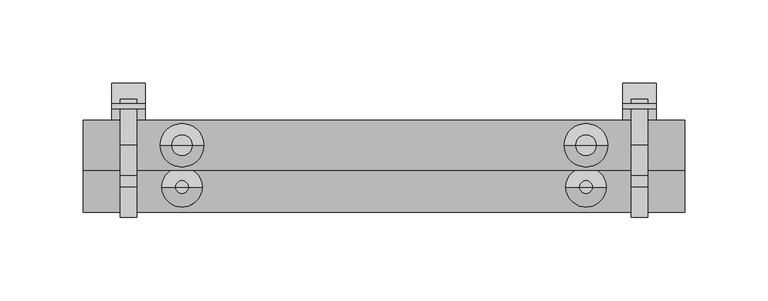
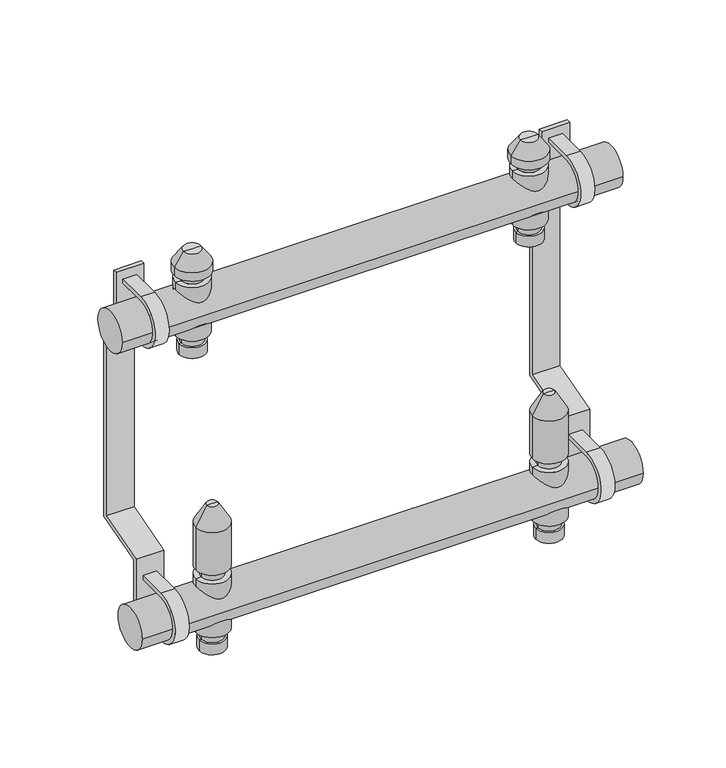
"""IFC4 building model written with IfcOpenShell, lengths in millimetres: valve geometry, PL AT_Manifold_FT-EV : 06 circuits."""

from ifc_helpers import new_model, si_unit, point, frame, frame_2d, origin, origin_2d, place, context, project, spatial, polyline, circle_curve, trimmed, segment, composite_curve, outline, extrude, source, transform, mapped, element, save
from ifc_brep_helpers import plane_surface, cylinder_surface, revolved_surface, advanced_brep


def valve_02e7046f(model_context):
    return source(origin(), model_context, "Body", "SolidModel", [
        advanced_brep(
        [(274.5, 0.0, -35.11267), (293.5, 0.0, -35.11267), (284.0, 0.0, -35.11267), (274.5, 0.0, -27.0369646), (293.5, 0.0, -27.0369646), (276.0, 0.0, -27.0369646), (292.0, 0.0, -27.0369646), (276.0, 0.0, -20.330253), (292.0, 0.0, -20.330253), (272.0, 0.0, -20.330253), (296.0, 0.0, -20.330253), (272.0, 0.0, 20.330253), (296.0, 0.0, 20.330253), (276.0, 0.0, 20.330253), (292.0, 0.0, 20.330253), (276.0, 0.0, 27.0474786), (292.0, 0.0, 27.0474786), (272.0, 0.0, 27.0474786), (296.0, 0.0, 27.0474786), (272.0, 0.0, 59.4084325), (296.0, 0.0, 59.4084325), (280.0, 0.0, 73.264839), (288.0, 0.0, 73.264839), (284.0, 0.0, 73.264839)],
        [
            (0, 1, circle_curve(frame((284.0, 0.0, -35.11267), z_axis=(0.0, 0.0, -1.0), x_axis=(1.0, 0.0, 0.0)), 9.5)),
            (1, 2),
            (2, 0),
            (1, 0, circle_curve(frame((284.0, 0.0, -35.11267), z_axis=(0.0, 0.0, -1.0), x_axis=(1.0, 0.0, 0.0)), 9.5)),
            (3, 4, circle_curve(frame((284.0, 0.0, -27.0369646), z_axis=(0.0, 0.0, -1.0), x_axis=(1.0, 0.0, 0.0)), 9.5)),
            (4, 1),
            (0, 3),
            (4, 3, circle_curve(frame((284.0, 0.0, -27.0369646), z_axis=(0.0, 0.0, -1.0), x_axis=(1.0, 0.0, 0.0)), 9.5)),
            (5, 6, circle_curve(frame((284.0, 0.0, -27.0369646), z_axis=(0.0, 0.0, -1.0), x_axis=(1.0, 0.0, 0.0)), 8.0)),
            (6, 4),
            (3, 5),
            (6, 5, circle_curve(frame((284.0, 0.0, -27.0369646), z_axis=(0.0, 0.0, -1.0), x_axis=(1.0, 0.0, 0.0)), 8.0)),
            (7, 8, circle_curve(frame((284.0, 0.0, -20.330253), z_axis=(0.0, 0.0, -1.0), x_axis=(1.0, 0.0, 0.0)), 8.0)),
            (8, 6),
            (5, 7),
            (8, 7, circle_curve(frame((284.0, 0.0, -20.330253), z_axis=(0.0, 0.0, -1.0), x_axis=(1.0, 0.0, 0.0)), 8.0)),
            (9, 10, circle_curve(frame((284.0, 0.0, -20.330253), z_axis=(0.0, 0.0, -1.0), x_axis=(1.0, 0.0, 0.0)), 12.0)),
            (10, 8),
            (7, 9),
            (10, 9, circle_curve(frame((284.0, 0.0, -20.330253), z_axis=(0.0, 0.0, -1.0), x_axis=(1.0, 0.0, 0.0)), 12.0)),
            (11, 12, circle_curve(frame((284.0, 0.0, 20.330253), z_axis=(0.0, 0.0, -1.0), x_axis=(1.0, 0.0, 0.0)), 12.0)),
            (12, 10),
            (9, 11),
            (12, 11, circle_curve(frame((284.0, 0.0, 20.330253), z_axis=(0.0, 0.0, -1.0), x_axis=(1.0, 0.0, 0.0)), 12.0)),
            (13, 14, circle_curve(frame((284.0, 0.0, 20.330253), z_axis=(0.0, 0.0, -1.0), x_axis=(1.0, 0.0, 0.0)), 8.0)),
            (14, 12),
            (11, 13),
            (14, 13, circle_curve(frame((284.0, 0.0, 20.330253), z_axis=(0.0, 0.0, -1.0), x_axis=(1.0, 0.0, 0.0)), 8.0)),
            (15, 16, circle_curve(frame((284.0, 0.0, 27.0474786), z_axis=(0.0, 0.0, -1.0), x_axis=(1.0, 0.0, 0.0)), 8.0)),
            (16, 14),
            (13, 15),
            (16, 15, circle_curve(frame((284.0, 0.0, 27.0474786), z_axis=(0.0, 0.0, -1.0), x_axis=(1.0, 0.0, 0.0)), 8.0)),
            (17, 18, circle_curve(frame((284.0, 0.0, 27.0474786), z_axis=(0.0, 0.0, -1.0), x_axis=(1.0, 0.0, 0.0)), 12.0)),
            (18, 16),
            (15, 17),
            (18, 17, circle_curve(frame((284.0, 0.0, 27.0474786), z_axis=(0.0, 0.0, -1.0), x_axis=(1.0, 0.0, 0.0)), 12.0)),
            (19, 20, circle_curve(frame((284.0, 0.0, 59.4084325), z_axis=(0.0, 0.0, -1.0), x_axis=(1.0, 0.0, 0.0)), 12.0)),
            (20, 18),
            (17, 19),
            (20, 19, circle_curve(frame((284.0, 0.0, 59.4084325), z_axis=(0.0, 0.0, -1.0), x_axis=(1.0, 0.0, 0.0)), 12.0)),
            (21, 22, circle_curve(frame((284.0, 0.0, 73.264839), z_axis=(0.0, 0.0, -1.0), x_axis=(1.0, 0.0, 0.0)), 4.0)),
            (22, 20),
            (19, 21),
            (22, 21, circle_curve(frame((284.0, 0.0, 73.264839), z_axis=(0.0, 0.0, -1.0), x_axis=(1.0, 0.0, 0.0)), 4.0)),
            (23, 22),
            (21, 23),
        ],
        [
            plane_surface(frame((284.0, 0.0, -35.11267), z_axis=(0.0, 0.0, -1.0), x_axis=(1.0, 0.0, 0.0))),
            cylinder_surface(frame((284.0, 0.0, 58.264839), z_axis=(0.0, 0.0, 1.0), x_axis=(1.0, 0.0, 0.0)), 9.5),
            plane_surface(frame((284.0, 0.0, -27.0369646), z_axis=(0.0, 0.0, 1.0), x_axis=(1.0, 0.0, 0.0))),
            cylinder_surface(frame((284.0, 0.0, 58.264839), z_axis=(0.0, 0.0, 1.0), x_axis=(1.0, 0.0, 0.0)), 8.0),
            plane_surface(frame((284.0, 0.0, -20.330253), z_axis=(0.0, 0.0, -1.0), x_axis=(1.0, 0.0, 0.0))),
            cylinder_surface(frame((284.0, 0.0, 58.264839), z_axis=(0.0, 0.0, 1.0), x_axis=(1.0, 0.0, 0.0)), 12.0),
            plane_surface(frame((284.0, 0.0, 20.330253), z_axis=(0.0, 0.0, 1.0), x_axis=(1.0, 0.0, 0.0))),
            plane_surface(frame((284.0, 0.0, 27.0474786), z_axis=(0.0, 0.0, -1.0), x_axis=(1.0, 0.0, 0.0))),
            revolved_surface(polyline([(296.0, 0.0, 59.4084325), (288.0, 0.0, 73.264839)]), (284.0, 0.0, 58.264839), (0.0, 0.0, 1.0)),
            plane_surface(frame((284.0, 0.0, 73.264839), z_axis=(0.0, 0.0, 1.0), x_axis=(1.0, 0.0, 0.0))),
        ],
        [
            (0, [[1, 2, 3]]),
            (0, [[4, -3, -2]]),
            (1, [[5, 6, -1, 7]]),
            (1, [[8, -7, -4, -6]]),
            (2, [[9, 10, -5, 11]]),
            (2, [[12, -11, -8, -10]]),
            (3, [[13, 14, -9, 15]]),
            (3, [[16, -15, -12, -14]]),
            (4, [[17, 18, -13, 19]]),
            (4, [[20, -19, -16, -18]]),
            (5, [[21, 22, -17, 23]]),
            (5, [[24, -23, -20, -22]]),
            (6, [[25, 26, -21, 27]]),
            (6, [[28, -27, -24, -26]]),
            (3, [[29, 30, -25, 31]]),
            (3, [[32, -31, -28, -30]]),
            (7, [[33, 34, -29, 35]]),
            (7, [[36, -35, -32, -34]]),
            (5, [[37, 38, -33, 39]]),
            (5, [[40, -39, -36, -38]]),
            (8, [[41, 42, -37, 43]]),
            (8, [[44, -43, -40, -42]]),
            (9, [[45, -41, 46]]),
            (9, [[-46, -44, -45]]),
        ],
    ),
        advanced_brep(
        [(274.5, 25.0, 174.88733), (293.5, 25.0, 174.88733), (284.0, 25.0, 174.88733), (274.5, 25.0, 182.9630354), (293.5, 25.0, 182.9630354), (276.0, 25.0, 182.9630354), (292.0, 25.0, 182.9630354), (276.0, 25.0, 189.669747), (292.0, 25.0, 189.669747), (272.0, 25.0, 189.669747), (296.0, 25.0, 189.669747), (272.0, 25.0, 230.330253), (296.0, 25.0, 230.330253), (276.0, 25.0, 230.330253), (292.0, 25.0, 230.330253), (276.0, 25.0, 236.0474786), (292.0, 25.0, 236.0474786), (271.0, 25.0, 236.0474786), (297.0, 25.0, 236.0474786), (271.0, 25.0, 242.337955), (297.0, 25.0, 242.337955), (277.6551779, 25.0, 251.842534), (290.3448221, 25.0, 251.842534), (284.0, 25.0, 251.842534)],
        [
            (0, 1, circle_curve(frame((284.0, 25.0, 174.88733), z_axis=(0.0, 0.0, -1.0), x_axis=(1.0, 0.0, 0.0)), 9.5)),
            (1, 2),
            (2, 0),
            (1, 0, circle_curve(frame((284.0, 25.0, 174.88733), z_axis=(0.0, 0.0, -1.0), x_axis=(1.0, 0.0, 0.0)), 9.5)),
            (3, 4, circle_curve(frame((284.0, 25.0, 182.9630354), z_axis=(0.0, 0.0, -1.0), x_axis=(1.0, 0.0, 0.0)), 9.5)),
            (4, 1),
            (0, 3),
            (4, 3, circle_curve(frame((284.0, 25.0, 182.9630354), z_axis=(0.0, 0.0, -1.0), x_axis=(1.0, 0.0, 0.0)), 9.5)),
            (5, 6, circle_curve(frame((284.0, 25.0, 182.9630354), z_axis=(0.0, 0.0, -1.0), x_axis=(1.0, 0.0, 0.0)), 8.0)),
            (6, 4),
            (3, 5),
            (6, 5, circle_curve(frame((284.0, 25.0, 182.9630354), z_axis=(0.0, 0.0, -1.0), x_axis=(1.0, 0.0, 0.0)), 8.0)),
            (7, 8, circle_curve(frame((284.0, 25.0, 189.669747), z_axis=(0.0, 0.0, -1.0), x_axis=(1.0, 0.0, 0.0)), 8.0)),
            (8, 6),
            (5, 7),
            (8, 7, circle_curve(frame((284.0, 25.0, 189.669747), z_axis=(0.0, 0.0, -1.0), x_axis=(1.0, 0.0, 0.0)), 8.0)),
            (9, 10, circle_curve(frame((284.0, 25.0, 189.669747), z_axis=(0.0, 0.0, -1.0), x_axis=(1.0, 0.0, 0.0)), 12.0)),
            (10, 8),
            (7, 9),
            (10, 9, circle_curve(frame((284.0, 25.0, 189.669747), z_axis=(0.0, 0.0, -1.0), x_axis=(1.0, 0.0, 0.0)), 12.0)),
            (11, 12, circle_curve(frame((284.0, 25.0, 230.330253), z_axis=(0.0, 0.0, -1.0), x_axis=(1.0, 0.0, 0.0)), 12.0)),
            (12, 10),
            (9, 11),
            (12, 11, circle_curve(frame((284.0, 25.0, 230.330253), z_axis=(0.0, 0.0, -1.0), x_axis=(1.0, 0.0, 0.0)), 12.0)),
            (13, 14, circle_curve(frame((284.0, 25.0, 230.330253), z_axis=(0.0, 0.0, -1.0), x_axis=(1.0, 0.0, 0.0)), 8.0)),
            (14, 12),
            (11, 13),
            (14, 13, circle_curve(frame((284.0, 25.0, 230.330253), z_axis=(0.0, 0.0, -1.0), x_axis=(1.0, 0.0, 0.0)), 8.0)),
            (15, 16, circle_curve(frame((284.0, 25.0, 236.0474786), z_axis=(0.0, 0.0, -1.0), x_axis=(1.0, 0.0, 0.0)), 8.0)),
            (16, 14),
            (13, 15),
            (16, 15, circle_curve(frame((284.0, 25.0, 236.0474786), z_axis=(0.0, 0.0, -1.0), x_axis=(1.0, 0.0, 0.0)), 8.0)),
            (17, 18, circle_curve(frame((284.0, 25.0, 236.0474786), z_axis=(0.0, 0.0, -1.0), x_axis=(1.0, 0.0, 0.0)), 13.0)),
            (18, 16),
            (15, 17),
            (18, 17, circle_curve(frame((284.0, 25.0, 236.0474786), z_axis=(0.0, 0.0, -1.0), x_axis=(1.0, 0.0, 0.0)), 13.0)),
            (19, 20, circle_curve(frame((284.0, 25.0, 242.337955), z_axis=(0.0, 0.0, -1.0), x_axis=(1.0, 0.0, 0.0)), 13.0)),
            (20, 18),
            (17, 19),
            (20, 19, circle_curve(frame((284.0, 25.0, 242.337955), z_axis=(0.0, 0.0, -1.0), x_axis=(1.0, 0.0, 0.0)), 13.0)),
            (21, 22, circle_curve(frame((284.0, 25.0, 251.842534), z_axis=(0.0, 0.0, -1.0), x_axis=(1.0, 0.0, 0.0)), 6.3448221)),
            (22, 20),
            (19, 21),
            (22, 21, circle_curve(frame((284.0, 25.0, 251.842534), z_axis=(0.0, 0.0, -1.0), x_axis=(1.0, 0.0, 0.0)), 6.3448221)),
            (23, 22),
            (21, 23),
        ],
        [
            plane_surface(frame((284.0, 25.0, 174.88733), z_axis=(0.0, 0.0, -1.0), x_axis=(1.0, 0.0, 0.0))),
            cylinder_surface(frame((284.0, 25.0, 247.7026565), z_axis=(0.0, 0.0, 1.0), x_axis=(1.0, 0.0, 0.0)), 9.5),
            plane_surface(frame((284.0, 25.0, 182.9630354), z_axis=(0.0, 0.0, 1.0), x_axis=(1.0, 0.0, 0.0))),
            cylinder_surface(frame((284.0, 25.0, 247.7026565), z_axis=(0.0, 0.0, 1.0), x_axis=(1.0, 0.0, 0.0)), 8.0),
            plane_surface(frame((284.0, 25.0, 189.669747), z_axis=(0.0, 0.0, -1.0), x_axis=(1.0, 0.0, 0.0))),
            cylinder_surface(frame((284.0, 25.0, 247.7026565), z_axis=(0.0, 0.0, 1.0), x_axis=(1.0, 0.0, 0.0)), 12.0),
            plane_surface(frame((284.0, 25.0, 230.330253), z_axis=(0.0, 0.0, 1.0), x_axis=(1.0, 0.0, 0.0))),
            plane_surface(frame((284.0, 25.0, 236.0474786), z_axis=(0.0, 0.0, -1.0), x_axis=(1.0, 0.0, 0.0))),
            cylinder_surface(frame((284.0, 25.0, 247.7026565), z_axis=(0.0, 0.0, 1.0), x_axis=(1.0, 0.0, 0.0)), 13.0),
            revolved_surface(polyline([(297.0, 25.0, 242.337955), (290.3448221, 25.0, 251.842534)]), (284.0, 25.0, 247.7026565), (0.0, 0.0, 1.0)),
            plane_surface(frame((284.0, 25.0, 251.842534), z_axis=(0.0, 0.0, 1.0), x_axis=(1.0, 0.0, 0.0))),
        ],
        [
            (0, [[1, 2, 3]]),
            (0, [[4, -3, -2]]),
            (1, [[5, 6, -1, 7]]),
            (1, [[8, -7, -4, -6]]),
            (2, [[9, 10, -5, 11]]),
            (2, [[12, -11, -8, -10]]),
            (3, [[13, 14, -9, 15]]),
            (3, [[16, -15, -12, -14]]),
            (4, [[17, 18, -13, 19]]),
            (4, [[20, -19, -16, -18]]),
            (5, [[21, 22, -17, 23]]),
            (5, [[24, -23, -20, -22]]),
            (6, [[25, 26, -21, 27]]),
            (6, [[28, -27, -24, -26]]),
            (3, [[29, 30, -25, 31]]),
            (3, [[32, -31, -28, -30]]),
            (7, [[33, 34, -29, 35]]),
            (7, [[36, -35, -32, -34]]),
            (8, [[37, 38, -33, 39]]),
            (8, [[40, -39, -36, -38]]),
            (9, [[41, 42, -37, 43]]),
            (9, [[44, -43, -40, -42]]),
            (10, [[45, -41, 46]]),
            (10, [[-46, -44, -45]]),
        ],
    ),
        advanced_brep(
        [(32.5, 25.0, 174.88733), (51.5, 25.0, 174.88733), (42.0, 25.0, 174.88733), (32.5, 25.0, 182.9630354), (51.5, 25.0, 182.9630354), (34.0, 25.0, 182.9630354), (50.0, 25.0, 182.9630354), (34.0, 25.0, 189.669747), (50.0, 25.0, 189.669747), (30.0, 25.0, 189.669747), (54.0, 25.0, 189.669747), (30.0, 25.0, 230.330253), (54.0, 25.0, 230.330253), (34.0, 25.0, 230.330253), (50.0, 25.0, 230.330253), (34.0, 25.0, 236.0474786), (50.0, 25.0, 236.0474786), (29.0, 25.0, 236.0474786), (55.0, 25.0, 236.0474786), (29.0, 25.0, 242.337955), (55.0, 25.0, 242.337955), (35.6551779, 25.0, 251.842534), (48.3448221, 25.0, 251.842534), (42.0, 25.0, 251.842534)],
        [
            (0, 1, circle_curve(frame((42.0, 25.0, 174.88733), z_axis=(0.0, 0.0, -1.0), x_axis=(1.0, 0.0, 0.0)), 9.5)),
            (1, 2),
            (2, 0),
            (1, 0, circle_curve(frame((42.0, 25.0, 174.88733), z_axis=(0.0, 0.0, -1.0), x_axis=(1.0, 0.0, 0.0)), 9.5)),
            (3, 4, circle_curve(frame((42.0, 25.0, 182.9630354), z_axis=(0.0, 0.0, -1.0), x_axis=(1.0, 0.0, 0.0)), 9.5)),
            (4, 1),
            (0, 3),
            (4, 3, circle_curve(frame((42.0, 25.0, 182.9630354), z_axis=(0.0, 0.0, -1.0), x_axis=(1.0, 0.0, 0.0)), 9.5)),
            (5, 6, circle_curve(frame((42.0, 25.0, 182.9630354), z_axis=(0.0, 0.0, -1.0), x_axis=(1.0, 0.0, 0.0)), 8.0)),
            (6, 4),
            (3, 5),
            (6, 5, circle_curve(frame((42.0, 25.0, 182.9630354), z_axis=(0.0, 0.0, -1.0), x_axis=(1.0, 0.0, 0.0)), 8.0)),
            (7, 8, circle_curve(frame((42.0, 25.0, 189.669747), z_axis=(0.0, 0.0, -1.0), x_axis=(1.0, 0.0, 0.0)), 8.0)),
            (8, 6),
            (5, 7),
            (8, 7, circle_curve(frame((42.0, 25.0, 189.669747), z_axis=(0.0, 0.0, -1.0), x_axis=(1.0, 0.0, 0.0)), 8.0)),
            (9, 10, circle_curve(frame((42.0, 25.0, 189.669747), z_axis=(0.0, 0.0, -1.0), x_axis=(1.0, 0.0, 0.0)), 12.0)),
            (10, 8),
            (7, 9),
            (10, 9, circle_curve(frame((42.0, 25.0, 189.669747), z_axis=(0.0, 0.0, -1.0), x_axis=(1.0, 0.0, 0.0)), 12.0)),
            (11, 12, circle_curve(frame((42.0, 25.0, 230.330253), z_axis=(0.0, 0.0, -1.0), x_axis=(1.0, 0.0, 0.0)), 12.0)),
            (12, 10),
            (9, 11),
            (12, 11, circle_curve(frame((42.0, 25.0, 230.330253), z_axis=(0.0, 0.0, -1.0), x_axis=(1.0, 0.0, 0.0)), 12.0)),
            (13, 14, circle_curve(frame((42.0, 25.0, 230.330253), z_axis=(0.0, 0.0, -1.0), x_axis=(1.0, 0.0, 0.0)), 8.0)),
            (14, 12),
            (11, 13),
            (14, 13, circle_curve(frame((42.0, 25.0, 230.330253), z_axis=(0.0, 0.0, -1.0), x_axis=(1.0, 0.0, 0.0)), 8.0)),
            (15, 16, circle_curve(frame((42.0, 25.0, 236.0474786), z_axis=(0.0, 0.0, -1.0), x_axis=(1.0, 0.0, 0.0)), 8.0)),
            (16, 14),
            (13, 15),
            (16, 15, circle_curve(frame((42.0, 25.0, 236.0474786), z_axis=(0.0, 0.0, -1.0), x_axis=(1.0, 0.0, 0.0)), 8.0)),
            (17, 18, circle_curve(frame((42.0, 25.0, 236.0474786), z_axis=(0.0, 0.0, -1.0), x_axis=(1.0, 0.0, 0.0)), 13.0)),
            (18, 16),
            (15, 17),
            (18, 17, circle_curve(frame((42.0, 25.0, 236.0474786), z_axis=(0.0, 0.0, -1.0), x_axis=(1.0, 0.0, 0.0)), 13.0)),
            (19, 20, circle_curve(frame((42.0, 25.0, 242.337955), z_axis=(0.0, 0.0, -1.0), x_axis=(1.0, 0.0, 0.0)), 13.0)),
            (20, 18),
            (17, 19),
            (20, 19, circle_curve(frame((42.0, 25.0, 242.337955), z_axis=(0.0, 0.0, -1.0), x_axis=(1.0, 0.0, 0.0)), 13.0)),
            (21, 22, circle_curve(frame((42.0, 25.0, 251.842534), z_axis=(0.0, 0.0, -1.0), x_axis=(1.0, 0.0, 0.0)), 6.3448221)),
            (22, 20),
            (19, 21),
            (22, 21, circle_curve(frame((42.0, 25.0, 251.842534), z_axis=(0.0, 0.0, -1.0), x_axis=(1.0, 0.0, 0.0)), 6.3448221)),
            (23, 22),
            (21, 23),
        ],
        [
            plane_surface(frame((42.0, 25.0, 174.88733), z_axis=(0.0, 0.0, -1.0), x_axis=(1.0, 0.0, 0.0))),
            cylinder_surface(frame((42.0, 25.0, 247.7026565), z_axis=(0.0, 0.0, 1.0), x_axis=(1.0, 0.0, 0.0)), 9.5),
            plane_surface(frame((42.0, 25.0, 182.9630354), z_axis=(0.0, 0.0, 1.0), x_axis=(1.0, 0.0, 0.0))),
            cylinder_surface(frame((42.0, 25.0, 247.7026565), z_axis=(0.0, 0.0, 1.0), x_axis=(1.0, 0.0, 0.0)), 8.0),
            plane_surface(frame((42.0, 25.0, 189.669747), z_axis=(0.0, 0.0, -1.0), x_axis=(1.0, 0.0, 0.0))),
            cylinder_surface(frame((42.0, 25.0, 247.7026565), z_axis=(0.0, 0.0, 1.0), x_axis=(1.0, 0.0, 0.0)), 12.0),
            plane_surface(frame((42.0, 25.0, 230.330253), z_axis=(0.0, 0.0, 1.0), x_axis=(1.0, 0.0, 0.0))),
            plane_surface(frame((42.0, 25.0, 236.0474786), z_axis=(0.0, 0.0, -1.0), x_axis=(1.0, 0.0, 0.0))),
            cylinder_surface(frame((42.0, 25.0, 247.7026565), z_axis=(0.0, 0.0, 1.0), x_axis=(1.0, 0.0, 0.0)), 13.0),
            revolved_surface(polyline([(55.0, 25.0, 242.337955), (48.3448221, 25.0, 251.842534)]), (42.0, 25.0, 247.7026565), (0.0, 0.0, 1.0)),
            plane_surface(frame((42.0, 25.0, 251.842534), z_axis=(0.0, 0.0, 1.0), x_axis=(1.0, 0.0, 0.0))),
        ],
        [
            (0, [[1, 2, 3]]),
            (0, [[4, -3, -2]]),
            (1, [[5, 6, -1, 7]]),
            (1, [[8, -7, -4, -6]]),
            (2, [[9, 10, -5, 11]]),
            (2, [[12, -11, -8, -10]]),
            (3, [[13, 14, -9, 15]]),
            (3, [[16, -15, -12, -14]]),
            (4, [[17, 18, -13, 19]]),
            (4, [[20, -19, -16, -18]]),
            (5, [[21, 22, -17, 23]]),
            (5, [[24, -23, -20, -22]]),
            (6, [[25, 26, -21, 27]]),
            (6, [[28, -27, -24, -26]]),
            (3, [[29, 30, -25, 31]]),
            (3, [[32, -31, -28, -30]]),
            (7, [[33, 34, -29, 35]]),
            (7, [[36, -35, -32, -34]]),
            (8, [[37, 38, -33, 39]]),
            (8, [[40, -39, -36, -38]]),
            (9, [[41, 42, -37, 43]]),
            (9, [[44, -43, -40, -42]]),
            (10, [[45, -41, 46]]),
            (10, [[-46, -44, -45]]),
        ],
    ),
        advanced_brep(
        [(32.5, 0.0, -35.11267), (51.5, 0.0, -35.11267), (42.0, 0.0, -35.11267), (32.5, 0.0, -27.0369646), (51.5, 0.0, -27.0369646), (34.0, 0.0, -27.0369646), (50.0, 0.0, -27.0369646), (34.0, 0.0, -20.330253), (50.0, 0.0, -20.330253), (30.0, 0.0, -20.330253), (54.0, 0.0, -20.330253), (30.0, 0.0, 20.330253), (54.0, 0.0, 20.330253), (34.0, 0.0, 20.330253), (50.0, 0.0, 20.330253), (34.0, 0.0, 27.0474786), (50.0, 0.0, 27.0474786), (30.0, 0.0, 27.0474786), (54.0, 0.0, 27.0474786), (30.0, 0.0, 59.4084325), (54.0, 0.0, 59.4084325), (38.0, 0.0, 73.264839), (46.0, 0.0, 73.264839), (42.0, 0.0, 73.264839)],
        [
            (0, 1, circle_curve(frame((42.0, 0.0, -35.11267), z_axis=(0.0, 0.0, -1.0), x_axis=(1.0, 0.0, 0.0)), 9.5)),
            (1, 2),
            (2, 0),
            (1, 0, circle_curve(frame((42.0, 0.0, -35.11267), z_axis=(0.0, 0.0, -1.0), x_axis=(1.0, 0.0, 0.0)), 9.5)),
            (3, 4, circle_curve(frame((42.0, 0.0, -27.0369646), z_axis=(0.0, 0.0, -1.0), x_axis=(1.0, 0.0, 0.0)), 9.5)),
            (4, 1),
            (0, 3),
            (4, 3, circle_curve(frame((42.0, 0.0, -27.0369646), z_axis=(0.0, 0.0, -1.0), x_axis=(1.0, 0.0, 0.0)), 9.5)),
            (5, 6, circle_curve(frame((42.0, 0.0, -27.0369646), z_axis=(0.0, 0.0, -1.0), x_axis=(1.0, 0.0, 0.0)), 8.0)),
            (6, 4),
            (3, 5),
            (6, 5, circle_curve(frame((42.0, 0.0, -27.0369646), z_axis=(0.0, 0.0, -1.0), x_axis=(1.0, 0.0, 0.0)), 8.0)),
            (7, 8, circle_curve(frame((42.0, 0.0, -20.330253), z_axis=(0.0, 0.0, -1.0), x_axis=(1.0, 0.0, 0.0)), 8.0)),
            (8, 6),
            (5, 7),
            (8, 7, circle_curve(frame((42.0, 0.0, -20.330253), z_axis=(0.0, 0.0, -1.0), x_axis=(1.0, 0.0, 0.0)), 8.0)),
            (9, 10, circle_curve(frame((42.0, 0.0, -20.330253), z_axis=(0.0, 0.0, -1.0), x_axis=(1.0, 0.0, 0.0)), 12.0)),
            (10, 8),
            (7, 9),
            (10, 9, circle_curve(frame((42.0, 0.0, -20.330253), z_axis=(0.0, 0.0, -1.0), x_axis=(1.0, 0.0, 0.0)), 12.0)),
            (11, 12, circle_curve(frame((42.0, 0.0, 20.330253), z_axis=(0.0, 0.0, -1.0), x_axis=(1.0, 0.0, 0.0)), 12.0)),
            (12, 10),
            (9, 11),
            (12, 11, circle_curve(frame((42.0, 0.0, 20.330253), z_axis=(0.0, 0.0, -1.0), x_axis=(1.0, 0.0, 0.0)), 12.0)),
            (13, 14, circle_curve(frame((42.0, 0.0, 20.330253), z_axis=(0.0, 0.0, -1.0), x_axis=(1.0, 0.0, 0.0)), 8.0)),
            (14, 12),
            (11, 13),
            (14, 13, circle_curve(frame((42.0, 0.0, 20.330253), z_axis=(0.0, 0.0, -1.0), x_axis=(1.0, 0.0, 0.0)), 8.0)),
            (15, 16, circle_curve(frame((42.0, 0.0, 27.0474786), z_axis=(0.0, 0.0, -1.0), x_axis=(1.0, 0.0, 0.0)), 8.0)),
            (16, 14),
            (13, 15),
            (16, 15, circle_curve(frame((42.0, 0.0, 27.0474786), z_axis=(0.0, 0.0, -1.0), x_axis=(1.0, 0.0, 0.0)), 8.0)),
            (17, 18, circle_curve(frame((42.0, 0.0, 27.0474786), z_axis=(0.0, 0.0, -1.0), x_axis=(1.0, 0.0, 0.0)), 12.0)),
            (18, 16),
            (15, 17),
            (18, 17, circle_curve(frame((42.0, 0.0, 27.0474786), z_axis=(0.0, 0.0, -1.0), x_axis=(1.0, 0.0, 0.0)), 12.0)),
            (19, 20, circle_curve(frame((42.0, 0.0, 59.4084325), z_axis=(0.0, 0.0, -1.0), x_axis=(1.0, 0.0, 0.0)), 12.0)),
            (20, 18),
            (17, 19),
            (20, 19, circle_curve(frame((42.0, 0.0, 59.4084325), z_axis=(0.0, 0.0, -1.0), x_axis=(1.0, 0.0, 0.0)), 12.0)),
            (21, 22, circle_curve(frame((42.0, 0.0, 73.264839), z_axis=(0.0, 0.0, -1.0), x_axis=(1.0, 0.0, 0.0)), 4.0)),
            (22, 20),
            (19, 21),
            (22, 21, circle_curve(frame((42.0, 0.0, 73.264839), z_axis=(0.0, 0.0, -1.0), x_axis=(1.0, 0.0, 0.0)), 4.0)),
            (23, 22),
            (21, 23),
        ],
        [
            plane_surface(frame((42.0, 0.0, -35.11267), z_axis=(0.0, 0.0, -1.0), x_axis=(1.0, 0.0, 0.0))),
            cylinder_surface(frame((42.0, 0.0, 58.264839), z_axis=(0.0, 0.0, 1.0), x_axis=(1.0, 0.0, 0.0)), 9.5),
            plane_surface(frame((42.0, 0.0, -27.0369646), z_axis=(0.0, 0.0, 1.0), x_axis=(1.0, 0.0, 0.0))),
            cylinder_surface(frame((42.0, 0.0, 58.264839), z_axis=(0.0, 0.0, 1.0), x_axis=(1.0, 0.0, 0.0)), 8.0),
            plane_surface(frame((42.0, 0.0, -20.330253), z_axis=(0.0, 0.0, -1.0), x_axis=(1.0, 0.0, 0.0))),
            cylinder_surface(frame((42.0, 0.0, 58.264839), z_axis=(0.0, 0.0, 1.0), x_axis=(1.0, 0.0, 0.0)), 12.0),
            plane_surface(frame((42.0, 0.0, 20.330253), z_axis=(0.0, 0.0, 1.0), x_axis=(1.0, 0.0, 0.0))),
            plane_surface(frame((42.0, 0.0, 27.0474786), z_axis=(0.0, 0.0, -1.0), x_axis=(1.0, 0.0, 0.0))),
            revolved_surface(polyline([(54.0, 0.0, 59.4084325), (46.0, 0.0, 73.264839)]), (42.0, 0.0, 58.264839), (0.0, 0.0, 1.0)),
            plane_surface(frame((42.0, 0.0, 73.264839), z_axis=(0.0, 0.0, 1.0), x_axis=(1.0, 0.0, 0.0))),
        ],
        [
            (0, [[1, 2, 3]]),
            (0, [[4, -3, -2]]),
            (1, [[5, 6, -1, 7]]),
            (1, [[8, -7, -4, -6]]),
            (2, [[9, 10, -5, 11]]),
            (2, [[12, -11, -8, -10]]),
            (3, [[13, 14, -9, 15]]),
            (3, [[16, -15, -12, -14]]),
            (4, [[17, 18, -13, 19]]),
            (4, [[20, -19, -16, -18]]),
            (5, [[21, 22, -17, 23]]),
            (5, [[24, -23, -20, -22]]),
            (6, [[25, 26, -21, 27]]),
            (6, [[28, -27, -24, -26]]),
            (3, [[29, 30, -25, 31]]),
            (3, [[32, -31, -28, -30]]),
            (7, [[33, 34, -29, 35]]),
            (7, [[36, -35, -32, -34]]),
            (5, [[37, 38, -33, 39]]),
            (5, [[40, -39, -36, -38]]),
            (8, [[41, 42, -37, 43]]),
            (8, [[44, -43, -40, -42]]),
            (9, [[45, -41, 46]]),
            (9, [[-46, -44, -45]]),
        ],
    ),
        extrude(outline(composite_curve([segment(trimmed(circle_curve(origin_2d(), 15.0), [point((0.0, 15.0))], [point((0.0, -15.0))], True, "CARTESIAN"), True, "CONTINUOUS"), segment(polyline([(0.0, -15.0), (27.6751284, -15.0), (27.6751284, -18.0), (0.0, -18.0)]), True, "CONTINUOUS"), segment(trimmed(circle_curve(origin_2d(), 18.0), [point((0.0, -18.0))], [point((0.0, 18.0))], False, "CARTESIAN"), True, "CONTINUOUS"), segment(polyline([(0.0, 18.0), (27.6751284, 18.0), (27.6751284, 15.0), (0.0, 15.0)]), True, "CONTINUOUS")], self_intersect=False)), frame((311.0, 0.0, 0.0), z_axis=(1.0, 0.0, 0.0), x_axis=(0.0, 1.0, 0.0)), (0.0, 0.0, 1.0), 10.0),
        extrude(outline(composite_curve([segment(trimmed(circle_curve(frame_2d((25.0, 210.0)), 15.0), [point((25.0, 225.0))], [point((25.0, 195.0))], True, "CARTESIAN"), True, "CONTINUOUS"), segment(polyline([(25.0, 195.0), (52.6751284, 195.0), (52.6751284, 192.0), (25.0, 192.0)]), True, "CONTINUOUS"), segment(trimmed(circle_curve(frame_2d((25.0, 210.0)), 18.0), [point((25.0, 192.0))], [point((25.0, 228.0))], False, "CARTESIAN"), True, "CONTINUOUS"), segment(polyline([(25.0, 228.0), (52.6751284, 228.0), (52.6751284, 225.0), (25.0, 225.0)]), True, "CONTINUOUS")], self_intersect=False)), frame((311.0, 0.0, 0.0), z_axis=(1.0, 0.0, 0.0), x_axis=(0.0, 1.0, 0.0)), (0.0, 0.0, 1.0), 10.0),
        extrude(outline(polyline([(62.0, 182.8840762), (62.0, 40.6095793), (25.0, 30.0), (25.0, -30.0), (22.0, -30.0), (22.0, 32.2606622), (59.0, 42.8702414), (59.0, 180.3667773), (47.0, 182.4827011), (47.0, 235.0), (50.0, 235.0), (50.0, 185.0), (62.0, 182.8840762)])), frame((306.0, 0.0, 0.0), z_axis=(1.0, 0.0, 0.0), x_axis=(0.0, 1.0, 0.0)), (0.0, 0.0, 1.0), 20.0),
        extrude(outline(composite_curve([segment(trimmed(circle_curve(origin_2d(), 15.0), [point((0.0, 15.0))], [point((0.0, -15.0))], True, "CARTESIAN"), True, "CONTINUOUS"), segment(polyline([(0.0, -15.0), (27.6751284, -15.0), (27.6751284, -18.0), (0.0, -18.0)]), True, "CONTINUOUS"), segment(trimmed(circle_curve(origin_2d(), 18.0), [point((0.0, -18.0))], [point((0.0, 18.0))], False, "CARTESIAN"), True, "CONTINUOUS"), segment(polyline([(0.0, 18.0), (27.6751284, 18.0), (27.6751284, 15.0), (0.0, 15.0)]), True, "CONTINUOUS")], self_intersect=False)), frame((5.0, 0.0, 0.0), z_axis=(1.0, 0.0, 0.0), x_axis=(0.0, 1.0, 0.0)), (0.0, 0.0, 1.0), 10.0),
        extrude(outline(composite_curve([segment(trimmed(circle_curve(frame_2d((25.0, 210.0)), 15.0), [point((25.0, 225.0))], [point((25.0, 195.0))], True, "CARTESIAN"), True, "CONTINUOUS"), segment(polyline([(25.0, 195.0), (52.6751284, 195.0), (52.6751284, 192.0), (25.0, 192.0)]), True, "CONTINUOUS"), segment(trimmed(circle_curve(frame_2d((25.0, 210.0)), 18.0), [point((25.0, 192.0))], [point((25.0, 228.0))], False, "CARTESIAN"), True, "CONTINUOUS"), segment(polyline([(25.0, 228.0), (52.6751284, 228.0), (52.6751284, 225.0), (25.0, 225.0)]), True, "CONTINUOUS")], self_intersect=False)), frame((5.0, 0.0, 0.0), z_axis=(1.0, 0.0, 0.0), x_axis=(0.0, 1.0, 0.0)), (0.0, 0.0, 1.0), 10.0),
        extrude(outline(polyline([(62.0, 182.8840762), (62.0, 40.6095793), (25.0, 30.0), (25.0, -30.0), (22.0, -30.0), (22.0, 32.2606622), (59.0, 42.8702414), (59.0, 180.3667773), (47.0, 182.4827011), (47.0, 235.0), (50.0, 235.0), (50.0, 185.0), (62.0, 182.8840762)])), frame((0.0, 0.0, 0.0), z_axis=(1.0, 0.0, 0.0), x_axis=(0.0, 1.0, 0.0)), (0.0, 0.0, 1.0), 20.0),
        extrude(outline(composite_curve([segment(trimmed(circle_curve(origin_2d(), 15.0), [point((15.0, 0.0))], [point((-15.0, 0.0))], False, "CARTESIAN"), True, "CONTINUOUS"), segment(trimmed(circle_curve(origin_2d(), 15.0), [point((-15.0, 0.0))], [point((15.0, 0.0))], False, "CARTESIAN"), True, "CONTINUOUS")], self_intersect=False)), frame((-17.0, 0.0, 0.0), z_axis=(1.0, 0.0, 0.0), x_axis=(0.0, 1.0, 0.0)), (0.0, 0.0, 1.0), 360.0),
        extrude(outline(composite_curve([segment(trimmed(circle_curve(frame_2d((25.0, 210.0)), 15.0), [point((40.0, 210.0))], [point((10.0, 210.0))], False, "CARTESIAN"), True, "CONTINUOUS"), segment(trimmed(circle_curve(frame_2d((25.0, 210.0)), 15.0), [point((10.0, 210.0))], [point((40.0, 210.0))], False, "CARTESIAN"), True, "CONTINUOUS")], self_intersect=False)), frame((-17.0, 0.0, 0.0), z_axis=(1.0, 0.0, 0.0), x_axis=(0.0, 1.0, 0.0)), (0.0, 0.0, 1.0), 360.0),
    ])


if __name__ == "__main__":
    model = new_model("IFC4")
    model_context = context("Model", 3, world=origin())
    ifc_project = project(units=[si_unit("LENGTHUNIT", "METRE", prefix="MILLI")], contexts=[model_context])
    site = spatial("IfcSite", under=ifc_project)
    building = spatial("IfcBuilding", under=site)
    placement = place(None, origin())
    valve_shape = valve_02e7046f(model_context)
    element("IfcValve", 1, ObjectType="PL AT_Manifold_FT-EV : 06 circuits", at=placement, inside=building, context=model_context, shape_type="MappedRepresentation", body=[
        mapped(valve_shape, transform((0.0, 0.0, 0.0), x_axis=(1.0, 0.0, 0.0), y_axis=(0.0, 1.0, 0.0), z_axis=(0.0, 0.0, 1.0))),
    ])
    save(model, "model.ifc")
